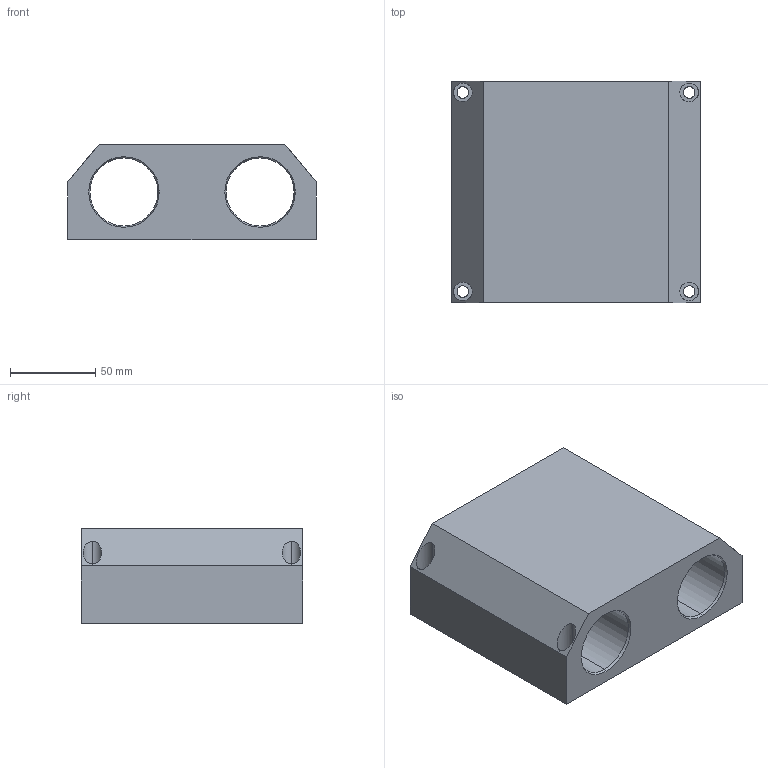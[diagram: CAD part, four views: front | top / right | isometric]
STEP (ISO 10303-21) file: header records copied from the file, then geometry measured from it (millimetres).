
FILE_DESCRIPTION (( 'STEP AP214' ), '1' );
FILE_NAME ('KQSGC-30.step', '2020-03-04T13:10:43', ( '' ), ( '' ), 'SwSTEP 2.0', 'SolidWorks 2019', '' );
FILE_SCHEMA (( 'AUTOMOTIVE_DESIGN' ));
Length unit declared in the file: millimetre
Products named in the file (1): KQSGC-30
Bounding box: 146 x 130 x 56 mm (x, y, z)
Volume: 673510 mm3; surface area: 96261.1 mm2
Topology: 1 solids, 1 shells, 58 faces, 132 edges, 83 vertices
Faces by surface type: cylinder 30, plane 16, cone 12
Entity records: 1862 total; most frequent: DIRECTION 302, CARTESIAN_POINT 296, ORIENTED_EDGE 260, EDGE_CURVE 130, AXIS2_PLACEMENT_3D 121, VERTEX_POINT 83, EDGE_LOOP 79, CIRCLE 62
